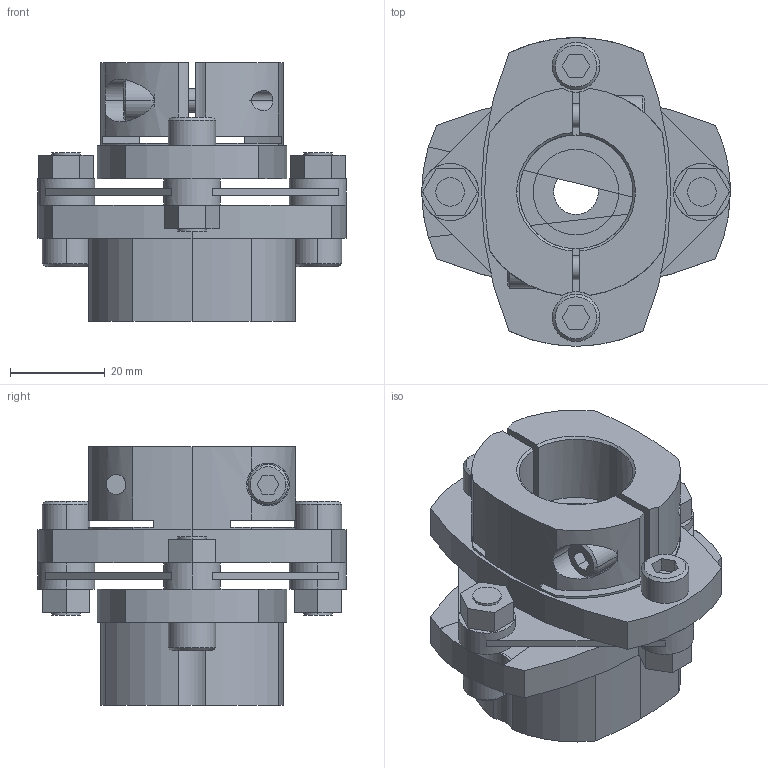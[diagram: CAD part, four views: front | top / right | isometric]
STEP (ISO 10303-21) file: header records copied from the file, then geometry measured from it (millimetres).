
FILE_DESCRIPTION((''),'2;1');
FILE_NAME('LCS-65M-11L亊24B.stp','2011-08-20T15:54:10',(''),(''),'AutoCAD STEP 2000i','AutoCAD 2000i',', , ');
FILE_SCHEMA(('CONFIG_CONTROL_DESIGN'));
Length unit declared in the file: millimetre
Products named in the file (9): LCS-65M-11L×24B; 忣兜1; LC65-B024; LC65-B022; LC65-B016; LC65M-L011; LC65-B014-1; LC65-B014; LCS65-ITA
Assembly tree (8 placements, depth 2):
  LCS-65M-11L×24B
    忣兜1
    LC65-B024
    LC65-B022
    LC65-B016
    LC65M-L011
    LC65-B014-1
    LC65-B014
    LCS65-ITA
Bounding box: 65 x 65 x 54.5 mm (x, y, z)
Volume: 72411.7 mm3; surface area: 26028 mm2
Topology: 1 solids, 1 shells, 228 faces, 596 edges, 390 vertices
Faces by surface type: plane 115, cylinder 92, cone 21
Entity records: 7525 total; most frequent: CARTESIAN_POINT 1493, DIRECTION 1290, ORIENTED_EDGE 1192, EDGE_CURVE 596, AXIS2_PLACEMENT_3D 475, VERTEX_POINT 390, VECTOR 340, LINE 340
